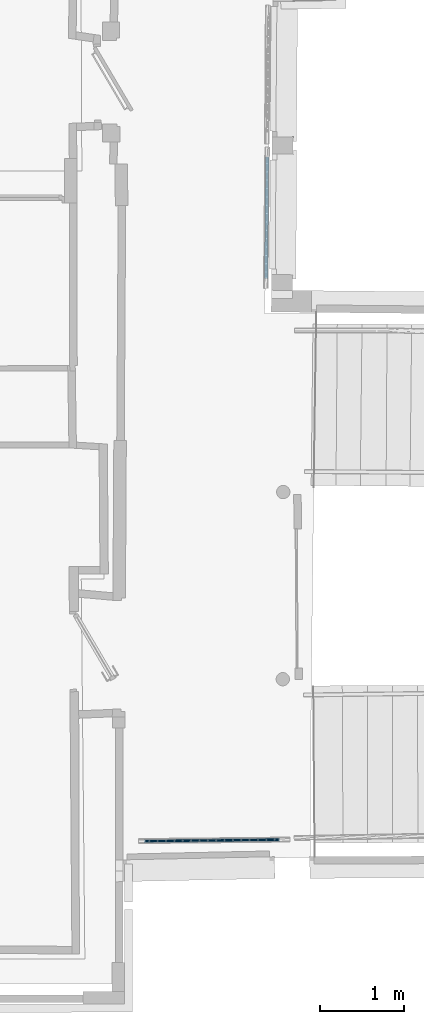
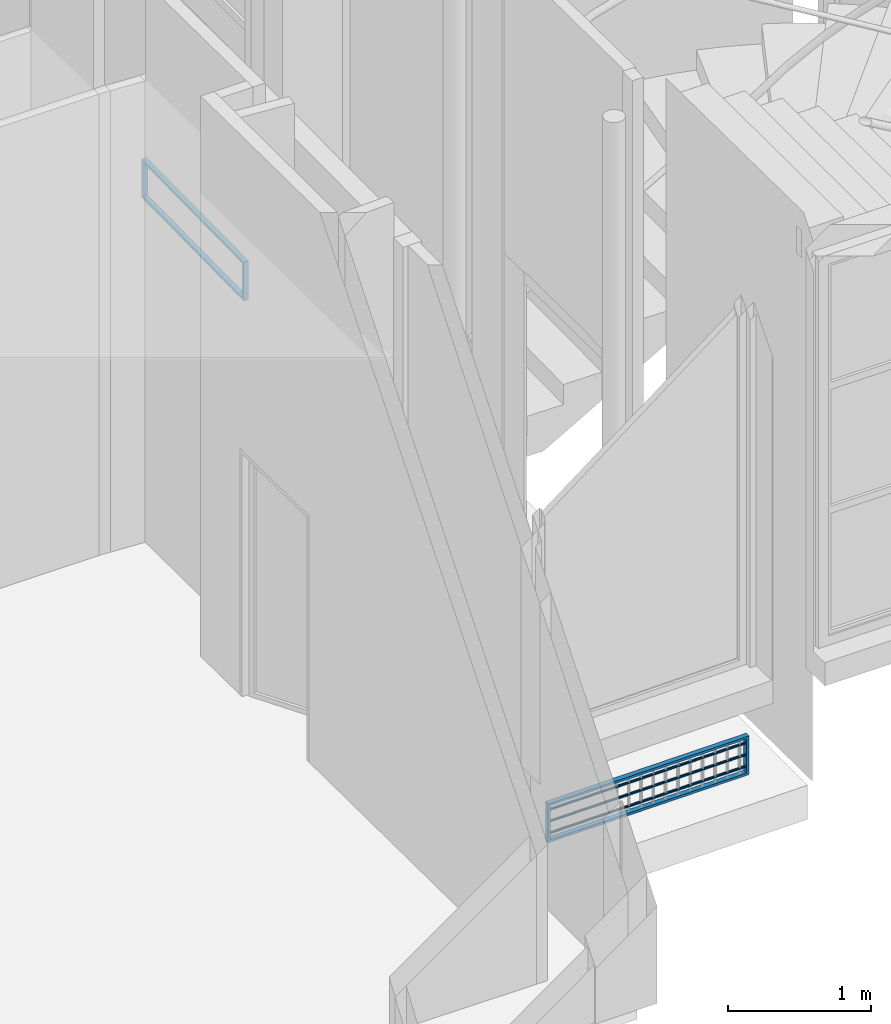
# One storey, part 26 of 97: 5 members, 2 elements without a shape of their own.
"""IFC2X3 building model written with IfcOpenShell, lengths in centimetres."""

from ifc_helpers import new_model, entity, si_unit, converted_unit, direction, frame, origin, origin_with_axes, place, context, subcontext, project, spatial, faceted_brep, material, type_object, element, aggregate, save


model = new_model("IFC2X3")

# Units and contexts
model_context = context("Model", 3, precision=0.0001, world=origin(), true_north=direction((0.225632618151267, 0.974212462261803, 0.0)))
body_context = subcontext(model_context, "Body", "Model", "MODEL_VIEW")
ifc_project = project(units=[si_unit("LENGTHUNIT", "METRE", prefix="CENTI"), si_unit("AREAUNIT", "SQUARE_METRE", prefix="CENTI"), si_unit("VOLUMEUNIT", "CUBIC_METRE", prefix="CENTI"), converted_unit("PLANEANGLEUNIT", "DEGREE", entity("IfcRatioMeasure", 0.0174532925), si_unit("PLANEANGLEUNIT", "RADIAN"), dimensions=[0, 0, 0, 0, 0, 0, 0])], contexts=[model_context])

# Site, building, storey
site_placement = place(None, origin_with_axes())
site = spatial("IfcSite", under=ifc_project, at=site_placement, Name="Default Site", CompositionType="ELEMENT")
building_placement = place(site_placement, origin_with_axes())
building = spatial("IfcBuilding", under=site, at=building_placement, Name="Default Building", CompositionType="ELEMENT")
storey_placement = place(building_placement, origin_with_axes())
storey = spatial("IfcBuildingStorey", under=building, at=storey_placement, Name="Rez-de-chaussée", CompositionType="ELEMENT", Elevation=0.0)

# Assembly, members
building_element_proxy_type = type_object("IfcBuildingElementProxyType", Name="Type Object", PredefinedType="NOTDEFINED")
assembly_1_placement = place(storey_placement, frame((1081.21588561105, -852.417794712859, 9.99999999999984), z_axis=(0.0, 0.0, 1.0), x_axis=(-0.999937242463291, -0.0112031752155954, 0.0)))
assembly_1 = element("IfcElementAssembly", 1, at=assembly_1_placement, inside=storey, type_object=building_element_proxy_type, Name="Panneau 1702014", ObjectType="Precast panel", PredefinedType="USERDEFINED")
ifc_material = material(Name="Aluminium satiné")
member_1_placement = place(assembly_1_placement, frame((1.9999999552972, 1.99999995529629, 31.0000002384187), z_axis=(1.0, 5.88418203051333e-15, -1.19636099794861e-17), x_axis=(-5.88418203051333e-15, 1.0, 0.0)))
member_1 = element("IfcMember", 2, at=member_1_placement, material=ifc_material, Name="4294967153", context=body_context, shape_type="Brep", body=[
    faceted_brep([(1.65492619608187e-13, 1.11022302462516e-14, -5.21804821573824e-13), (-3.99999991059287, 1.11022302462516e-14, -5.45355426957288e-13), (-3.99999991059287, -29.000000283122, -5.45355426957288e-13), (1.65492619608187e-13, -29.000000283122, -5.21804821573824e-13), (-3.99999991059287, 1.11022302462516e-14, -5.45397060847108e-13), (-3.99999991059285, 2.00000107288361, -1.99999995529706), (-3.99999991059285, -31.0000002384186, -1.99999995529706), (-3.99999991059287, -29.000000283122, -5.45050116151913e-13), (-3.99999991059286, 2.00000107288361, -1.99999995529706), (1.7728873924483e-13, 2.00000107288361, -1.99999995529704), (1.7728873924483e-13, -31.0000002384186, -1.99999995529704), (-3.99999991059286, -31.0000002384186, -1.99999995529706), (1.65513436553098e-13, 1.11022302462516e-14, -5.21804821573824e-13), (1.65513436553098e-13, -29.000000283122, -5.21457876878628e-13), (1.65492619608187e-13, -29.000000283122, -5.21457876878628e-13), (-3.9999999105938, -29.000000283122, 159.000001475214), (-7.70564168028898e-13, -29.000000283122, 159.000001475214), (-3.99999991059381, -31.0000002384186, 160.999999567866), (-7.8236028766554e-13, -31.0000002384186, 160.999999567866), (-7.70623157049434e-13, -29.000000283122, 159.000001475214), (-7.8239844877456e-13, -31.0000002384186, 160.999999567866), (-3.9999999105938, 1.11022302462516e-14, 159.000001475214), (-7.70564168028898e-13, 1.11022302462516e-14, 159.000001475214), (-3.99999991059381, -31.0000002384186, 160.999999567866), (-3.99999991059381, 2.00000107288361, 160.999999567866), (-7.8236028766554e-13, 2.00000107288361, 160.999999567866), (-3.99999991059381, 2.00000107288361, 160.999999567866), (-7.70584995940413e-13, -29.000000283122, 159.000001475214), (-7.70584995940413e-13, 1.11022302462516e-14, 159.000001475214), (-3.99999991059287, 9.20001624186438e-15, -5.45397060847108e-13), (1.65492619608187e-13, 9.20001624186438e-15, -5.21804821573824e-13), (1.65551597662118e-13, 1.11022302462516e-14, -5.21804821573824e-13), (1.7732690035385e-13, 2.00000107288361, -1.99999995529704)], [[[0, 1, 2, 3]], [[4, 5, 6, 7]], [[8, 9, 10, 11]], [[9, 12, 13, 10]], [[14, 7, 15, 16]], [[7, 6, 17, 15]], [[11, 10, 18, 17]], [[10, 13, 19, 20]], [[16, 15, 21, 22]], [[15, 23, 24, 21]], [[17, 18, 25, 26]], [[18, 27, 28, 25]], [[22, 21, 29, 30]], [[21, 24, 8, 4]], [[26, 25, 9, 8]], [[25, 28, 31, 32]]]),
])
member_2_placement = place(assembly_1_placement, frame((161.000001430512, 0.342020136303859, 25.5603075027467), z_axis=(1.0, 2.67756303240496e-13, 1.54594219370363e-13), x_axis=(3.09181499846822e-13, -0.866024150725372, -0.50000217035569)))
member_2 = element("IfcMember", 3, at=member_2_placement, material=ifc_material, Name="4294967152", context=body_context, shape_type="Brep", body=[
    faceted_brep([(-3.63598040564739e-13, 2.60902410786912e-13, -3.99680288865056e-13), (-0.347296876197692, 2.94209101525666e-13, -2.92301314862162e-13), (-0.673647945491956, -0.118779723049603, -1.91398160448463e-13), (-0.939693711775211, -0.342018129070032, -1.09140227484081e-13), (-1.11334216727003, -0.642784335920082, -5.54499524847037e-14), (-1.173651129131, -0.984805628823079, -3.68024379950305e-14), (-1.11334356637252, -1.32682410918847, -5.54477399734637e-14), (-0.9396966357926, -1.62759289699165, -1.09135978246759e-13), (-0.673653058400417, -1.85083187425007, -1.91392072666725e-13), (-0.347301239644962, -1.96961451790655, -2.92294840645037e-13), (-4.36344763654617e-06, -1.96961451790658, -3.99673814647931e-13), (0.326346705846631, -1.85083479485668, -5.0057696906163e-13), (0.592392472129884, -1.62759638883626, -5.82834902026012e-13), (0.766040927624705, -1.3268301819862, -6.36525177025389e-13), (0.826349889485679, -0.984808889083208, -6.55172691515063e-13), (0.766042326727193, -0.642790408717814, -6.36527389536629e-13), (0.592395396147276, -0.342021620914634, -5.82839151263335e-13), (0.326351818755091, -0.118782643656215, -5.00583056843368e-13), (0.326351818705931, -0.118782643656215, -159.000001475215), (0.592395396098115, -0.342021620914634, -159.000001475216), (0.766042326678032, -0.642790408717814, -159.000001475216), (0.826349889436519, -0.984808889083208, -159.000001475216), (0.766040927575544, -1.3268301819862, -159.000001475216), (0.592392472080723, -1.62759638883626, -159.000001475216), (0.32634670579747, -1.85083479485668, -159.000001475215), (-4.3634967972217e-06, -1.96961451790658, -159.000001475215), (-0.347301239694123, -1.96961451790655, -159.000001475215), (-0.673653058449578, -1.85083187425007, -159.000001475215), (-0.939696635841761, -1.62759289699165, -159.000001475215), (-1.11334356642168, -1.32682410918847, -159.000001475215), (-1.17365112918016, -0.984805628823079, -159.000001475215), (-1.11334216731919, -0.642784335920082, -159.000001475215), (-0.939693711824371, -0.342018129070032, -159.000001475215), (-0.673647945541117, -0.118779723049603, -159.000001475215), (-0.347296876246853, 2.94209101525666e-13, -159.000001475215), (-4.95242735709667e-11, 2.60902410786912e-13, -159.000001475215), (0.326351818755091, -0.118782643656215, -4.88498130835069e-13), (0.592395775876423, -0.342021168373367, -5.77316090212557e-13), (0.592395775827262, -0.342021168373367, -159.000001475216), (0.32635181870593, -0.118782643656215, -159.000001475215), (0.592395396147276, -0.342021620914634, -5.77315972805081e-13), (0.76604307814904, -0.642789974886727, -6.43929586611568e-13), (0.766043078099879, -0.642789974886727, -159.000001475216), (0.766042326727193, -0.642790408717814, -6.43929354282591e-13), (0.826348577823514, -0.984809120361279, -6.43928948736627e-13), (0.826348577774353, -0.984809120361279, -159.000001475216), (0.826349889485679, -0.984808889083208, -6.43929354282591e-13), (0.766041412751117, -1.32683026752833, -6.43929504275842e-13), (0.766041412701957, -1.32683026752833, -159.000001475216), (0.766040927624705, -1.3268301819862, -6.43929354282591e-13), (0.592392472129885, -1.62759638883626, -5.77315972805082e-13), (0.592392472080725, -1.62759638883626, -159.000001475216), (0.766040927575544, -1.32683018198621, -159.000001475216), (0.592392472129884, -1.62759638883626, -5.77315972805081e-13), (0.326346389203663, -1.85083441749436, -4.88498032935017e-13), (0.326346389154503, -1.85083441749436, -159.000001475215), (0.326346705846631, -1.85083479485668, -4.88498130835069e-13), (-3.90791551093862e-06, -1.96961576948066, -3.99680429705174e-13), (-3.90796467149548e-06, -1.96961576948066, -159.000001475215), (0.32634670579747, -1.85083479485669, -159.000001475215), (-4.36344763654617e-06, -1.96961451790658, -3.99680288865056e-13), (-0.347301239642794, -1.9696136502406, -2.88657986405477e-13), (-0.347301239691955, -1.9696136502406, -159.000001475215), (-0.347301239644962, -1.96961451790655, -2.88657986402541e-13), (-0.673652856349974, -1.85083131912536, -1.99840206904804e-13), (-0.673652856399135, -1.85083131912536, -159.000001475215), (-0.673653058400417, -1.85083187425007, -1.99840144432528e-13), (-0.939697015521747, -1.62759334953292, -1.1102218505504e-13), (-0.939697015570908, -1.62759334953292, -159.000001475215), (-0.9396966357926, -1.62759289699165, -1.11022302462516e-13), (-1.11334431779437, -1.32682454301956, -4.44086886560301e-14), (-1.11334431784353, -1.32682454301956, -159.000001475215), (-0.93969663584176, -1.62759289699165, -159.000001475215), (-1.11334356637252, -1.32682410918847, -4.44089209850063e-14), (-1.17364981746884, -0.984805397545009, -4.44093265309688e-14), (-1.173649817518, -0.984805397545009, -159.000001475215), (-1.173651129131, -0.984805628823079, -4.44089209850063e-14), (-1.11334265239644, -0.642784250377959, -4.4408770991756e-14), (-1.1133426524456, -0.64278425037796, -159.000001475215), (-1.11334216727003, -0.642784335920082, -4.44089209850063e-14), (-0.939693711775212, -0.342018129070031, -1.11022302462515e-13), (-0.939693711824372, -0.342018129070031, -159.000001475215), (-1.11334216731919, -0.642784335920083, -159.000001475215), (-0.939693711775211, -0.342018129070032, -1.11022302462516e-13), (-0.673647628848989, -0.118780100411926, -1.9984024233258e-13), (-0.673647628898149, -0.118780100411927, -159.000001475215), (-0.673647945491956, -0.118779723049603, -1.99840144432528e-13), (-0.347297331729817, 1.25157437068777e-06, -2.88657845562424e-13), (-0.347297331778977, 1.25157437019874e-06, -159.000001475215), (-0.347296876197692, 2.94209101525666e-13, -2.88657986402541e-13), (-2.53132335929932e-12, -8.6766569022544e-07, -3.9968028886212e-13), (-5.16919988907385e-11, -8.67665690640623e-07, -159.000001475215), (-0.347296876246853, 2.93793919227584e-13, -159.000001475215), (0.326351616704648, -0.118783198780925, -4.88498068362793e-13), (0.326351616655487, -0.118783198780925, -159.000001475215), (-4.95243637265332e-11, 2.6065471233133e-13, -159.000001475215)], [[[0, 1, 2, 3, 4, 5, 6, 7, 8, 9, 10, 11, 12, 13, 14, 15, 16, 17]], [[18, 19, 20, 21, 22, 23, 24, 25, 26, 27, 28, 29, 30, 31, 32, 33, 34, 35]], [[36, 37, 38, 39]], [[40, 41, 42, 19]], [[43, 44, 45, 20]], [[46, 47, 48, 21]], [[49, 50, 51, 52]], [[53, 54, 55, 23]], [[56, 57, 58, 59]], [[60, 61, 62, 25]], [[63, 64, 65, 26]], [[66, 67, 68, 27]], [[69, 70, 71, 72]], [[73, 74, 75, 29]], [[76, 77, 78, 30]], [[79, 80, 81, 82]], [[83, 84, 85, 32]], [[86, 87, 88, 33]], [[89, 90, 91, 92]], [[0, 93, 94, 95]]]),
])
member_3_placement = place(assembly_1_placement, frame((161.000001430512, 0.342020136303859, 15.5603080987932), z_axis=(1.0, 2.67758037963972e-13, 1.54591617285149e-13), x_axis=(3.09183234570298e-13, -0.866026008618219, -0.499998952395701)))
member_3 = element("IfcMember", 4, at=member_3_placement, material=ifc_material, Name="4294967151", context=body_context, shape_type="Brep", body=[
    faceted_brep([(-3.19189119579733e-13, 1.36002320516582e-13, -3.99680288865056e-13), (-0.347296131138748, 1.69309011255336e-13, -2.92302147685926e-13), (-0.673647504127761, -0.118782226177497, -1.91399774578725e-13), (-0.939691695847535, -0.342020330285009, -1.09143370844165e-13), (-1.11333977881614, -0.642788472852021, -5.54542948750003e-14), (-1.1736467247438, -0.984808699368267, -3.68083982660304e-14), (-1.11333863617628, -1.32682824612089, -5.54546481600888e-14), (-0.939690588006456, -1.62759638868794, -1.09143713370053e-13), (-0.673645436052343, -1.85083308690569, -1.91400413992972e-13), (-0.347293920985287, -1.9696158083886, -2.92302831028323e-13), (2.95520964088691e-06, -1.96961451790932, -3.99681202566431e-13), (0.326354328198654, -1.85083229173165, -5.00583575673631e-13), (0.592398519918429, -1.62759418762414, -5.82839979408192e-13), (0.766046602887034, -1.32682604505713, -6.36529055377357e-13), (0.826353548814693, -0.984805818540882, -6.55174951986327e-13), (0.766045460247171, -0.642786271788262, -6.36528702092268e-13), (0.59239666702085, -0.342019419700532, -5.82839406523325e-13), (0.326352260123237, -0.118781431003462, -5.00582936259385e-13), (0.326352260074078, -0.118781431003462, -159.000001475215), (0.592396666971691, -0.342019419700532, -159.000001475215), (0.766045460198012, -0.642786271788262, -159.000001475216), (0.826353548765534, -0.984805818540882, -159.000001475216), (0.766046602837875, -1.32682604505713, -159.000001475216), (0.592398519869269, -1.62759418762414, -159.000001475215), (0.326354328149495, -1.85083229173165, -159.000001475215), (2.95516048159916e-06, -1.96961451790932, -159.000001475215), (-0.347293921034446, -1.9696158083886, -159.000001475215), (-0.673645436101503, -1.85083308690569, -159.000001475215), (-0.939690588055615, -1.62759638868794, -159.000001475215), (-1.11333863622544, -1.32682824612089, -159.000001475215), (-1.17364672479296, -0.984808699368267, -159.000001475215), (-1.1133397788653, -0.642788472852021, -159.000001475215), (-0.939691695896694, -0.342020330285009, -159.000001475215), (-0.673647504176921, -0.118782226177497, -159.000001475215), (-0.347296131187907, 1.69309011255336e-13, -159.000001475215), (-4.94784768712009e-11, 1.36002320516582e-13, -159.000001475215), (0.326352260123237, -0.118781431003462, -4.88498130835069e-13), (0.592397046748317, -0.342018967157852, -5.77316090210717e-13), (0.592397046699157, -0.342018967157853, -159.000001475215), (0.59239666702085, -0.342019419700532, -5.77315972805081e-13), (0.766045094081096, -0.64278648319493, -6.21724780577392e-13), (0.766045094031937, -0.642786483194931, -159.000001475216), (0.59239666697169, -0.342019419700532, -159.000001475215), (0.766045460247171, -0.642786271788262, -6.21724893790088e-13), (0.826353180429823, -0.984805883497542, -6.43929240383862e-13), (0.826353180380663, -0.984805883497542, -159.000001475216), (0.766045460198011, -0.642786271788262, -159.000001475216), (0.826353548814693, -0.984805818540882, -6.43929354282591e-13), (0.766046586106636, -1.32682604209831, -6.21724888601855e-13), (0.766046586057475, -1.32682604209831, -159.000001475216), (0.826353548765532, -0.984805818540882, -159.000001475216), (0.766046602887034, -1.32682604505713, -6.21724893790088e-13), (0.592398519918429, -1.62759418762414, -5.77315972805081e-13), (0.766046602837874, -1.32682604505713, -159.000001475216), (0.326354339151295, -1.85083230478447, -4.88498134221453e-13), (0.326354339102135, -1.85083230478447, -159.000001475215), (0.326354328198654, -1.85083229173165, -4.88498130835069e-13), (3.08314880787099e-06, -1.969614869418, -3.99680328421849e-13), (3.08309964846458e-06, -1.969614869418, -159.000001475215), (2.95520964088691e-06, -1.96961451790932, -3.99680288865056e-13), (-0.347293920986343, -1.96961494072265, -2.88657986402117e-13), (-0.347293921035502, -1.96961494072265, -159.000001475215), (-0.347293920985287, -1.9696158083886, -2.88657986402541e-13), (-0.673645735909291, -1.850833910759, -1.77635591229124e-13), (-0.673645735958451, -1.850833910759, -159.000001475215), (-0.673645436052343, -1.85083308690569, -1.77635683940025e-13), (-0.939690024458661, -1.62759571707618, -1.11022476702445e-13), (-0.939690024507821, -1.62759571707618, -159.000001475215), (-0.939690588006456, -1.62759638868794, -1.11022302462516e-13), (-1.11333938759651, -1.32682867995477, -4.44086886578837e-14), (-1.11333938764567, -1.32682867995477, -159.000001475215), (-0.939690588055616, -1.62759638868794, -159.000001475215), (-1.11333863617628, -1.32682824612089, -4.44089209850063e-14), (-1.17364635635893, -0.984808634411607, -4.44090348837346e-14), (-1.17364635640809, -0.984808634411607, -159.000001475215), (-1.1736467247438, -0.984808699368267, -4.44089209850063e-14), (-1.11333976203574, -0.642788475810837, -4.44089261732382e-14), (-1.1133397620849, -0.642788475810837, -159.000001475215), (-1.11333977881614, -0.642788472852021, -4.44089209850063e-14), (-0.939691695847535, -0.342020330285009, -8.88178419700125e-14), (-0.939691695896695, -0.342020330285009, -159.000001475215), (-0.673647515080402, -0.11878221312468, -1.99840141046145e-13), (-0.673647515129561, -0.11878221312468, -159.000001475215), (-0.939691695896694, -0.342020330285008, -159.000001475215), (-0.673647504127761, -0.118782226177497, -1.99840144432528e-13), (-0.347296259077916, 3.51508846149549e-07, -2.66453486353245e-13), (-0.347296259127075, 3.5150884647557e-07, -159.000001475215), (-0.673647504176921, -0.118782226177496, -159.000001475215), (-0.347296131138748, 1.69309011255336e-13, -2.66453525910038e-13), (-8.33938187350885e-13, 4.22812593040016e-07, -3.9968028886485e-13), (-4.99932259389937e-11, 4.22812593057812e-07, -159.000001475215), (-0.347296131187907, 1.69326806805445e-13, -159.000001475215), (0.326352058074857, -0.118781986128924, -4.88498068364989e-13), (0.326352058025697, -0.118781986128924, -159.000001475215), (-4.94785858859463e-11, 1.35702803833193e-13, -159.000001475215)], [[[0, 1, 2, 3, 4, 5, 6, 7, 8, 9, 10, 11, 12, 13, 14, 15, 16, 17]], [[18, 19, 20, 21, 22, 23, 24, 25, 26, 27, 28, 29, 30, 31, 32, 33, 34, 35]], [[36, 37, 38, 18]], [[39, 40, 41, 42]], [[43, 44, 45, 46]], [[47, 48, 49, 50]], [[51, 52, 23, 53]], [[52, 54, 55, 23]], [[56, 57, 58, 24]], [[59, 60, 61, 25]], [[62, 63, 64, 26]], [[65, 66, 67, 27]], [[68, 69, 70, 71]], [[72, 73, 74, 29]], [[75, 76, 77, 30]], [[78, 79, 80, 31]], [[79, 81, 82, 83]], [[84, 85, 86, 87]], [[88, 89, 90, 91]], [[0, 92, 93, 94]]]),
])
member_4_placement = place(assembly_1_placement, frame((161.000001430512, 0.342020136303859, 5.56030720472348), z_axis=(1.0, 2.67759772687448e-13, 1.54592484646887e-13), x_axis=(3.09181499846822e-13, -0.866025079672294, -0.500000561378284)))
member_4 = element("IfcMember", 5, at=member_4_placement, material=ifc_material, Name="4294967150", context=body_context, shape_type="Brep", body=[
    faceted_brep([(-3.87884169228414e-13, 2.14411821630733e-13, -2.44249065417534e-13), (-0.347296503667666, 2.47718512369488e-13, -1.36869604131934e-13), (-0.673648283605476, -0.118781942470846, -3.59660759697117e-14), (-0.939693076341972, -0.342019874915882, 4.62912429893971e-14), (-1.11334134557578, -0.642787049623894, 9.99807181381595e-14), (-1.17364892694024, -0.984807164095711, 1.18626723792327e-13), (-1.11334184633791, -1.32682746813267, 9.99802796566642e-14), (-0.93969361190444, -1.62759464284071, 4.62902935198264e-14), (-0.673649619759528, -1.85083312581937, -3.5967165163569e-14), (-0.347297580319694, -1.96961516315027, -1.36870979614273e-13), (-1.44918186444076e-06, -1.96961580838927, -2.44250325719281e-13), (0.32635051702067, -1.85083354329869, -3.451539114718e-13), (0.592395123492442, -1.62759593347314, -4.27411172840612e-13), (0.766043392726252, -1.32682875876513, -4.81100647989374e-13), (0.826351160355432, -0.984808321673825, -4.99746711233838e-13), (0.766043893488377, -0.642788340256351, -4.81100209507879e-13), (0.592396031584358, -0.342020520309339, -4.27410338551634e-13), (0.326351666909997, -0.118782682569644, -3.45152764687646e-13), (0.326351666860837, -0.118782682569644, -159.000001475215), (0.592396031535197, -0.342020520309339, -159.000001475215), (0.766043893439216, -0.642788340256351, -159.000001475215), (0.826351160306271, -0.984808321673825, -159.000001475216), (0.766043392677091, -1.32682875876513, -159.000001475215), (0.592395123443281, -1.62759593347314, -159.000001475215), (0.326350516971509, -1.85083354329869, -159.000001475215), (-1.44923102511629e-06, -1.96961580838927, -159.000001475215), (-0.347297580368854, -1.96961516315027, -159.000001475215), (-0.673649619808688, -1.85083312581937, -159.000001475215), (-0.939693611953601, -1.62759464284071, -159.000001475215), (-1.11334184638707, -1.32682746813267, -159.000001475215), (-1.1736489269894, -0.984807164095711, -159.000001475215), (-1.11334134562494, -0.642787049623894, -159.000001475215), (-0.939693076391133, -0.342019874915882, -159.000001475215), (-0.673648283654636, -0.118781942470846, -159.000001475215), (-0.347296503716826, 2.47718512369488e-13, -159.000001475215), (-4.95485596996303e-11, 2.14411821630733e-13, -159.000001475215), (0.326351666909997, -0.118782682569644, -3.5527136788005e-13), (0.59239593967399, -0.342020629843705, -4.2188472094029e-13), (0.59239593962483, -0.342020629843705, -159.000001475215), (0.592396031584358, -0.342020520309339, -4.21884749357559e-13), (0.766044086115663, -0.642788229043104, -4.88498190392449e-13), (0.766044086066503, -0.642788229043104, -159.000001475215), (0.766043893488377, -0.642788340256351, -4.88498130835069e-13), (0.826351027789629, -0.984808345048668, -4.88498089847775e-13), (0.826351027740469, -0.984808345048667, -159.000001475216), (0.826351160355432, -0.984808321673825, -4.88498130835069e-13), (0.766043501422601, -1.3268287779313, -4.88498164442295e-13), (0.76604350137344, -1.3268287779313, -159.000001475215), (0.766043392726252, -1.32682875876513, -4.88498130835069e-13), (0.592395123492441, -1.62759593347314, -4.44089209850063e-13), (0.592395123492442, -1.62759593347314, -4.44089209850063e-13), (0.326350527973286, -1.85083355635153, -3.33066910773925e-13), (0.326350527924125, -1.85083355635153, -159.000001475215), (0.32635051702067, -1.85083354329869, -3.33066907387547e-13), (-1.48504131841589e-06, -1.96961570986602, -2.44249054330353e-13), (-1.48509047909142e-06, -1.96961570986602, -159.000001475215), (-1.44918186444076e-06, -1.96961580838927, -2.44249065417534e-13), (-0.347297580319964, -1.96961558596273, -1.33226762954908e-13), (-0.347297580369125, -1.96961558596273, -159.000001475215), (-0.347297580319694, -1.96961516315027, -1.33226762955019e-13), (-0.673649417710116, -1.85083257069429, -4.44089834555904e-14), (-0.673649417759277, -1.85083257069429, -159.000001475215), (-0.673649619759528, -1.85083312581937, -4.44089209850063e-14), (-0.939693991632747, -1.62759509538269, 4.44090383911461e-14), (-0.939693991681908, -1.62759509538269, -159.000001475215), (-0.93969361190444, -1.62759464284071, 4.44089209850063e-14), (-1.11334148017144, -1.32682725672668, 1.11022189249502e-13), (-1.1133414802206, -1.32682725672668, -159.000001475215), (-1.11334184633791, -1.32682746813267, 1.11022302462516e-13), (-1.17364903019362, -0.984807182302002, 1.11022334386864e-13), (-1.17364903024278, -0.984807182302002, -159.000001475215), (-1.17364892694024, -0.984807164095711, 1.11022302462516e-13), (-1.11334132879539, -0.642787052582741, 8.88178367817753e-14), (-1.11334132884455, -0.642787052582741, -159.000001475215), (-1.11334134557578, -0.642787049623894, 8.88178419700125e-14), (-0.939693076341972, -0.342019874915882, 4.44089209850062e-14), (-0.939693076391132, -0.342019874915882, -159.000001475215), (-0.939693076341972, -0.342019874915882, 4.44089209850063e-14), (-0.673648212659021, -0.118782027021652, -4.44089429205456e-14), (-0.673648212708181, -0.118782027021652, -159.000001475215), (-0.673648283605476, -0.118781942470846, -4.44089209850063e-14), (-0.347296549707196, 1.26493081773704e-07, -1.33226748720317e-13), (-0.347296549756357, 1.26493081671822e-07, -159.000001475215), (-0.347296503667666, 2.47718512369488e-13, -1.33226762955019e-13), (-5.30337849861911e-13, -2.22426532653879e-07, -2.44249065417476e-13), (-4.96910133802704e-11, -2.22426532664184e-07, -159.000001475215), (-0.347296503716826, 2.47708207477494e-13, -159.000001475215), (0.326351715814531, -0.118782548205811, -3.55271383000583e-13), (0.32635171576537, -0.118782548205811, -159.000001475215), (-4.95485234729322e-11, 2.14511353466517e-13, -159.000001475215)], [[[0, 1, 2, 3, 4, 5, 6, 7, 8, 9, 10, 11, 12, 13, 14, 15, 16, 17]], [[18, 19, 20, 21, 22, 23, 24, 25, 26, 27, 28, 29, 30, 31, 32, 33, 34, 35]], [[36, 37, 38, 18]], [[39, 40, 41, 19]], [[42, 43, 44, 20]], [[45, 46, 47, 21]], [[48, 49, 23, 22]], [[50, 51, 52, 23]], [[53, 54, 55, 24]], [[56, 57, 58, 25]], [[59, 60, 61, 26]], [[62, 63, 64, 27]], [[65, 66, 67, 28]], [[68, 69, 70, 29]], [[71, 72, 73, 30]], [[74, 75, 76, 31]], [[77, 78, 79, 32]], [[80, 81, 82, 33]], [[83, 84, 85, 86]], [[0, 87, 88, 89]]]),
])
aggregate(assembly_1, [member_1, member_2, member_3, member_4])

# Assembly, member
assembly_2_placement = place(storey_placement, frame((1065.74726462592, -36.1039081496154, 11.9999999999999), z_axis=(0.0, 0.0, 1.0), x_axis=(-0.00922380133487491, -0.999957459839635, 0.0)))
assembly_2 = element("IfcElementAssembly", 6, at=assembly_2_placement, inside=storey, type_object=building_element_proxy_type, Name="Panneau 1702030", ObjectType="Precast panel", PredefinedType="USERDEFINED")
member_5_placement = place(assembly_2_placement, frame((1.9999999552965, 1.9999999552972, 31.0000002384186), z_axis=(1.0, -1.03909936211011e-15, -1.19636099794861e-17), x_axis=(1.03909936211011e-15, 1.0, 0.0)))
member_5 = element("IfcMember", 7, at=member_5_placement, material=ifc_material, Name="4294967115", context=body_context, shape_type="Brep", body=[
    faceted_brep([(-1.74513181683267e-13, -5.55111512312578e-15, -6.93889390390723e-15), (-3.99999991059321, -5.55111512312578e-15, -2.77555765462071e-15), (-3.99999991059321, -29.0000002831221, -2.77555765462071e-15), (-1.74513181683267e-13, -29.0000002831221, -6.93889390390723e-15), (-3.99999991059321, -5.55111512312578e-15, -2.77555756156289e-15), (-3.99999991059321, 2.0000010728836, -1.99999995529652), (-3.99999991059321, -31.0000002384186, -1.99999995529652), (-3.99999991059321, -29.0000002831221, -2.42861286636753e-15), (-1.76594849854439e-13, 2.0000010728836, -1.99999995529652), (-1.76594849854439e-13, -31.0000002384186, -1.99999995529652), (-1.74513181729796e-13, -5.55111512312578e-15, -6.93889390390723e-15), (-1.74513181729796e-13, -29.0000002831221, -6.59194920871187e-15), (-1.74513181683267e-13, -29.0000002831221, -6.59194920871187e-15), (-3.99999991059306, -29.0000002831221, 140.999994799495), (-2.77555756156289e-14, -29.0000002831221, 140.999994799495), (-3.99999991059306, -31.0000002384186, 143.000004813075), (-2.56739074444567e-14, -31.0000002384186, 143.000004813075), (-2.77555810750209e-14, -29.0000002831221, 140.999994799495), (-2.56739024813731e-14, -31.0000002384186, 143.000004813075), (-3.99999991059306, -5.55111512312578e-15, 140.999994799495), (-2.77555756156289e-14, -5.55111512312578e-15, 140.999994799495), (-3.99999991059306, 2.0000010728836, 143.000004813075), (-2.56739074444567e-14, 2.0000010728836, 143.000004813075), (-2.77555860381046e-14, -29.0000002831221, 140.999994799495), (-2.77555860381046e-14, -5.55111512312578e-15, 140.999994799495), (-3.99999991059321, -7.23798406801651e-15, -2.77555756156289e-15), (-1.74513181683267e-13, -7.23798406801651e-15, -6.93889390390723e-15), (-1.74513186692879e-13, -5.55111512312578e-15, -6.93889390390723e-15), (-1.76594854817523e-13, 2.0000010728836, -1.99999995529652)], [[[0, 1, 2, 3]], [[4, 5, 6, 7]], [[5, 8, 9, 6]], [[8, 10, 11, 9]], [[12, 7, 13, 14]], [[7, 6, 15, 13]], [[6, 9, 16, 15]], [[9, 11, 17, 18]], [[14, 13, 19, 20]], [[13, 15, 21, 19]], [[15, 16, 22, 21]], [[16, 23, 24, 22]], [[20, 19, 25, 26]], [[19, 21, 5, 4]], [[21, 22, 8, 5]], [[22, 24, 27, 28]]]),
])
aggregate(assembly_2, [member_5])

save(model, "model.ifc")
